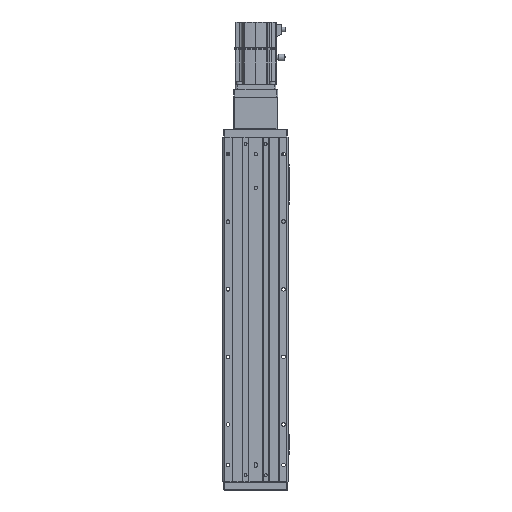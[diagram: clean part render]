
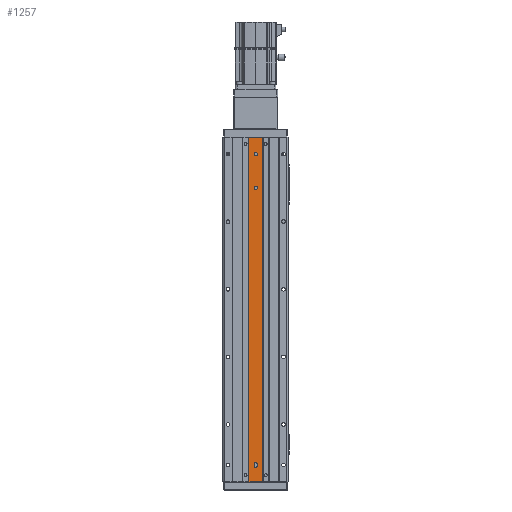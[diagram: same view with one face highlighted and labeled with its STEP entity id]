
A CAD part, front view. The second image highlights one B-rep face of the part: STEP entity #1257.
In plain terms, the highlighted planar face has unit normal (0, -1, 0).
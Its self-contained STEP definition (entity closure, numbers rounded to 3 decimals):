
#846 = EDGE_CURVE ( 'NONE', #38201, #20121, #5186, .T. ) ;
#1088 = LINE ( 'NONE', #14733, #35067 ) ;
#1177 = VECTOR ( 'NONE', #13042, 1000. ) ;
#1246 = VERTEX_POINT ( 'NONE', #29347 ) ;
#1257 = ADVANCED_FACE ( 'NONE', ( #43148, #12194, #25957, #39739 ), #8836, .F. ) ;
#1419 = CARTESIAN_POINT ( 'NONE',  ( -2.5, 1., -229. ) ) ;
#1488 = AXIS2_PLACEMENT_3D ( 'NONE', #24619, #38395, #7498 ) ;
#1677 = CARTESIAN_POINT ( 'NONE',  ( -10., 1., -255. ) ) ;
#2421 = EDGE_CURVE ( 'NONE', #11221, #1246, #10919, .T. ) ;
#3022 = CARTESIAN_POINT ( 'NONE',  ( 2.5, 1., 180. ) ) ;
#3230 = EDGE_LOOP ( 'NONE', ( #6537, #26431, #6822, #43814 ) ) ;
#4517 = AXIS2_PLACEMENT_3D ( 'NONE', #15201, #28999, #42791 ) ;
#5076 = DIRECTION ( 'NONE',  ( 0., -1., 0. ) ) ;
#5186 = CIRCLE ( 'NONE', #4517, 2.5 ) ;
#5466 = DIRECTION ( 'NONE',  ( -1., 0., 0. ) ) ;
#6501 = EDGE_LOOP ( 'NONE', ( #38756, #35790 ) ) ;
#6537 = ORIENTED_EDGE ( 'NONE', *, *, #16825, .T. ) ;
#6822 = ORIENTED_EDGE ( 'NONE', *, *, #14450, .F. ) ;
#7108 = EDGE_CURVE ( 'NONE', #20121, #38201, #15737, .T. ) ;
#7266 = CARTESIAN_POINT ( 'NONE',  ( -10., 1., 255. ) ) ;
#7309 = CARTESIAN_POINT ( 'NONE',  ( 2.5, 1., 230. ) ) ;
#7498 = DIRECTION ( 'NONE',  ( 1., 0., 0. ) ) ;
#7867 = EDGE_CURVE ( 'NONE', #29574, #11221, #13511, .T. ) ;
#8453 = CARTESIAN_POINT ( 'NONE',  ( 10., 1., -255. ) ) ;
#8836 = PLANE ( 'NONE',  #40168 ) ;
#8934 = DIRECTION ( 'NONE',  ( 0., 0., 1. ) ) ;
#9184 = CARTESIAN_POINT ( 'NONE',  ( -10., 1., -255. ) ) ;
#9327 = CARTESIAN_POINT ( 'NONE',  ( 2.5, 1., -229. ) ) ;
#9640 = AXIS2_PLACEMENT_3D ( 'NONE', #12736, #26519, #40304 ) ;
#9839 = AXIS2_PLACEMENT_3D ( 'NONE', #41401, #10488, #24249 ) ;
#10488 = DIRECTION ( 'NONE',  ( 0., -1., 0. ) ) ;
#10494 = DIRECTION ( 'NONE',  ( 1., 0., 0. ) ) ;
#10919 = LINE ( 'NONE', #24673, #13728 ) ;
#11221 = VERTEX_POINT ( 'NONE', #1419 ) ;
#11574 = VERTEX_POINT ( 'NONE', #8453 ) ;
#12194 = FACE_BOUND ( 'NONE', #6501, .T. ) ;
#12694 = ORIENTED_EDGE ( 'NONE', *, *, #26483, .F. ) ;
#12736 = CARTESIAN_POINT ( 'NONE',  ( 0., 1., -231. ) ) ;
#13042 = DIRECTION ( 'NONE',  ( 0., 0., 1. ) ) ;
#13511 = CIRCLE ( 'NONE', #38787, 2.5 ) ;
#13728 = VECTOR ( 'NONE', #38455, 1000. ) ;
#14450 = EDGE_CURVE ( 'NONE', #11574, #21865, #40077, .T. ) ;
#14674 = VERTEX_POINT ( 'NONE', #41868 ) ;
#14677 = ORIENTED_EDGE ( 'NONE', *, *, #30091, .F. ) ;
#14733 = CARTESIAN_POINT ( 'NONE',  ( 10., 1., -255. ) ) ;
#14811 = CARTESIAN_POINT ( 'NONE',  ( -2.5, 1., 180. ) ) ;
#15114 = VERTEX_POINT ( 'NONE', #7309 ) ;
#15149 = ORIENTED_EDGE ( 'NONE', *, *, #36367, .F. ) ;
#15201 = CARTESIAN_POINT ( 'NONE',  ( 0., 1., 180. ) ) ;
#15737 = CIRCLE ( 'NONE', #40995, 2.5 ) ;
#16058 = EDGE_CURVE ( 'NONE', #11574, #23097, #1088, .T. ) ;
#16061 = CARTESIAN_POINT ( 'NONE',  ( 2.5, 1., -231. ) ) ;
#16825 = EDGE_CURVE ( 'NONE', #23097, #14674, #38157, .T. ) ;
#17557 = EDGE_CURVE ( 'NONE', #23902, #15114, #29307, .T. ) ;
#18764 = DIRECTION ( 'NONE',  ( 1., 0., 0. ) ) ;
#20121 = VERTEX_POINT ( 'NONE', #14811 ) ;
#20979 = DIRECTION ( 'NONE',  ( -1., 0., 0. ) ) ;
#21224 = EDGE_LOOP ( 'NONE', ( #12694, #28466 ) ) ;
#21865 = VERTEX_POINT ( 'NONE', #1677 ) ;
#22571 = CARTESIAN_POINT ( 'NONE',  ( -10., 1., -255. ) ) ;
#22930 = DIRECTION ( 'NONE',  ( -1., 0., 0. ) ) ;
#23097 = VERTEX_POINT ( 'NONE', #29355 ) ;
#23902 = VERTEX_POINT ( 'NONE', #42369 ) ;
#24249 = DIRECTION ( 'NONE',  ( 1., 0., 0. ) ) ;
#24619 = CARTESIAN_POINT ( 'NONE',  ( 0., 1., 230. ) ) ;
#24673 = CARTESIAN_POINT ( 'NONE',  ( -2.5, 1., -229. ) ) ;
#24789 = ORIENTED_EDGE ( 'NONE', *, *, #7867, .F. ) ;
#25465 = VECTOR ( 'NONE', #22930, 1000. ) ;
#25833 = EDGE_CURVE ( 'NONE', #21865, #14674, #26049, .T. ) ;
#25957 = FACE_BOUND ( 'NONE', #34612, .T. ) ;
#26049 = LINE ( 'NONE', #39830, #40379 ) ;
#26431 = ORIENTED_EDGE ( 'NONE', *, *, #25833, .F. ) ;
#26483 = EDGE_CURVE ( 'NONE', #15114, #23902, #40312, .T. ) ;
#26519 = DIRECTION ( 'NONE',  ( 0., -1., 0. ) ) ;
#27638 = CARTESIAN_POINT ( 'NONE',  ( 0., 1., 180. ) ) ;
#27913 = VECTOR ( 'NONE', #20979, 1000. ) ;
#28466 = ORIENTED_EDGE ( 'NONE', *, *, #17557, .F. ) ;
#28524 = DIRECTION ( 'NONE',  ( 0., 0., 1. ) ) ;
#28999 = DIRECTION ( 'NONE',  ( 0., -1., 0. ) ) ;
#29089 = CIRCLE ( 'NONE', #9640, 2.5 ) ;
#29307 = CIRCLE ( 'NONE', #9839, 2.5 ) ;
#29347 = CARTESIAN_POINT ( 'NONE',  ( -2.5, 1., -231. ) ) ;
#29355 = CARTESIAN_POINT ( 'NONE',  ( 10., 1., 255. ) ) ;
#29574 = VERTEX_POINT ( 'NONE', #9327 ) ;
#30091 = EDGE_CURVE ( 'NONE', #37676, #29574, #30230, .T. ) ;
#30230 = LINE ( 'NONE', #44014, #1177 ) ;
#34612 = EDGE_LOOP ( 'NONE', ( #35505, #24789, #14677, #15149 ) ) ;
#35067 = VECTOR ( 'NONE', #28524, 1000. ) ;
#35505 = ORIENTED_EDGE ( 'NONE', *, *, #2421, .F. ) ;
#35790 = ORIENTED_EDGE ( 'NONE', *, *, #7108, .F. ) ;
#35946 = CARTESIAN_POINT ( 'NONE',  ( 0., 1., -229. ) ) ;
#36345 = DIRECTION ( 'NONE',  ( 0., 1., 0. ) ) ;
#36367 = EDGE_CURVE ( 'NONE', #1246, #37676, #29089, .T. ) ;
#37676 = VERTEX_POINT ( 'NONE', #16061 ) ;
#38157 = LINE ( 'NONE', #7266, #27913 ) ;
#38201 = VERTEX_POINT ( 'NONE', #3022 ) ;
#38395 = DIRECTION ( 'NONE',  ( 0., -1., 0. ) ) ;
#38455 = DIRECTION ( 'NONE',  ( 0., 0., -1. ) ) ;
#38756 = ORIENTED_EDGE ( 'NONE', *, *, #846, .F. ) ;
#38787 = AXIS2_PLACEMENT_3D ( 'NONE', #35946, #5076, #18764 ) ;
#39739 = FACE_OUTER_BOUND ( 'NONE', #3230, .T. ) ;
#39830 = CARTESIAN_POINT ( 'NONE',  ( -10., 1., -255. ) ) ;
#40077 = LINE ( 'NONE', #9184, #25465 ) ;
#40168 = AXIS2_PLACEMENT_3D ( 'NONE', #22571, #36345, #5466 ) ;
#40304 = DIRECTION ( 'NONE',  ( 1., 0., 0. ) ) ;
#40312 = CIRCLE ( 'NONE', #1488, 2.5 ) ;
#40379 = VECTOR ( 'NONE', #8934, 1000. ) ;
#40995 = AXIS2_PLACEMENT_3D ( 'NONE', #27638, #41409, #10494 ) ;
#41401 = CARTESIAN_POINT ( 'NONE',  ( 0., 1., 230. ) ) ;
#41409 = DIRECTION ( 'NONE',  ( 0., -1., 0. ) ) ;
#41868 = CARTESIAN_POINT ( 'NONE',  ( -10., 1., 255. ) ) ;
#42369 = CARTESIAN_POINT ( 'NONE',  ( -2.5, 1., 230. ) ) ;
#42791 = DIRECTION ( 'NONE',  ( 1., 0., 0. ) ) ;
#43148 = FACE_BOUND ( 'NONE', #21224, .T. ) ;
#43814 = ORIENTED_EDGE ( 'NONE', *, *, #16058, .T. ) ;
#44014 = CARTESIAN_POINT ( 'NONE',  ( 2.5, 1., -229. ) ) ;
